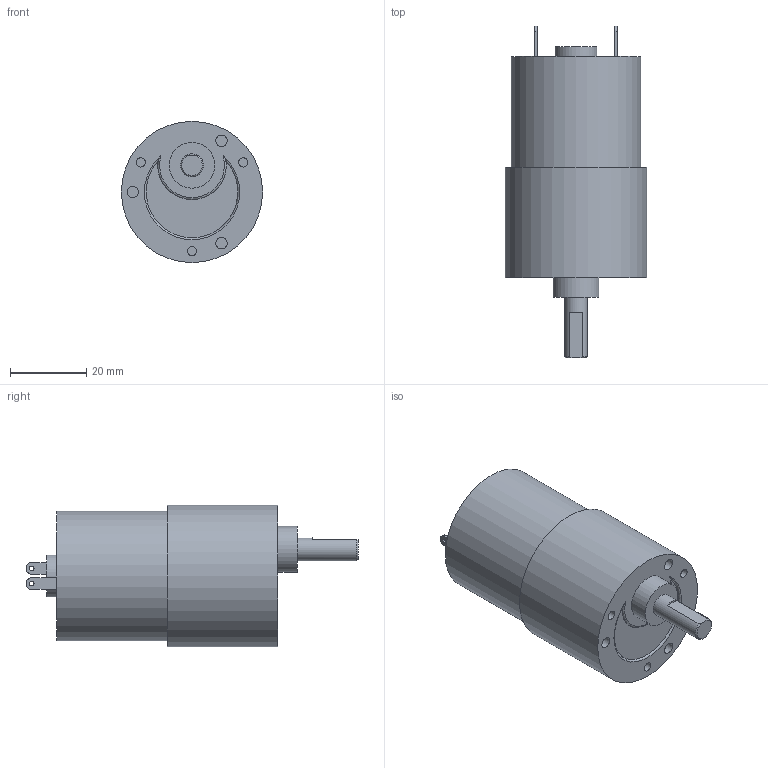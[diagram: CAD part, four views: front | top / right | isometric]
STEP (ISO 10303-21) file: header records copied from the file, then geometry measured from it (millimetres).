
FILE_DESCRIPTION((''),'2;1');
FILE_NAME('E:\2공장-도면\3D\표준형 3D(민규)\1공장 step\KGC-3429 SERIES.stp','2015-02-26T12:05:19',('AHN'),(''),'Autodesk Inventor 2012','Autodesk Inventor 2012','');
FILE_SCHEMA(('CONFIG_CONTROL_DESIGN'));
Length unit declared in the file: millimetre
Products named in the file (1): KGC-3429
Bounding box: 37 x 87 x 37 mm (x, y, z)
Volume: 58558.5 mm3; surface area: 9482.6 mm2
Topology: 1 solids, 1 shells, 41 faces, 78 edges, 52 vertices
Faces by surface type: plane 23, cylinder 15, torus 2, cone 1
Full cylindrical faces by diameter (mm): 1.2 x2, 2.4 x3, 3 x3, 6 x1, 11 x1, 12 x1, 34 x1, 37 x1
Entity records: 1028 total; most frequent: CARTESIAN_POINT 187, DIRECTION 180, ORIENTED_EDGE 128, AXIS2_PLACEMENT_3D 78, EDGE_LOOP 71, EDGE_CURVE 64, VERTEX_POINT 51, FACE_OUTER_BOUND 41
